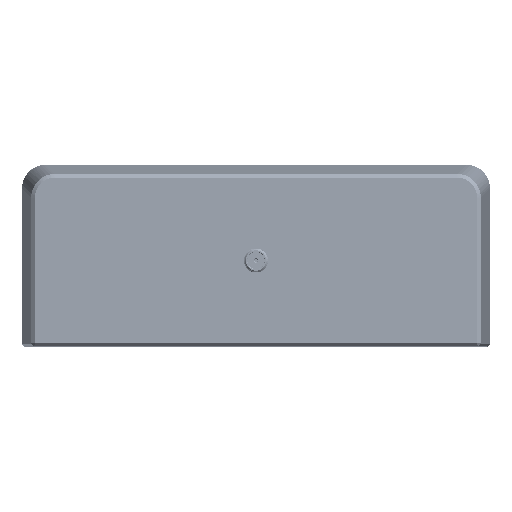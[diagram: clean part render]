
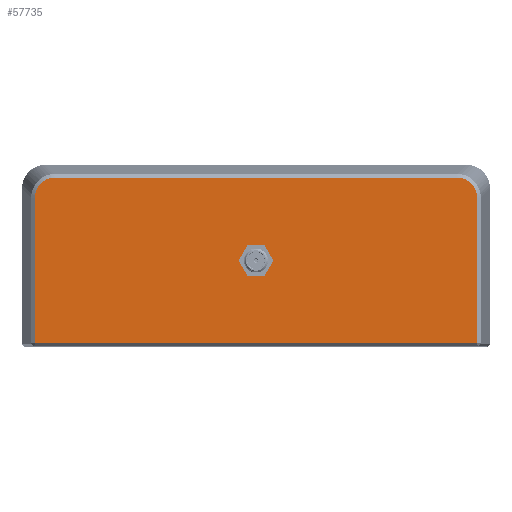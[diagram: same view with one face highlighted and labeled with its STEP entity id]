
A CAD part, top view. The second image highlights one B-rep face of the part: STEP entity #57735.
In plain terms, the highlighted planar face has unit normal (0, 0, 1).
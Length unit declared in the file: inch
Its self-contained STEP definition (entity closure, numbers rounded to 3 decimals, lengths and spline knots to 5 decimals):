
#814 = CIRCLE ( 'NONE', #115791, 0.1255 ) ;
#2743 = CARTESIAN_POINT ( 'NONE',  ( 2.96331, 4.87721, 2.87625 ) ) ;
#3403 = CARTESIAN_POINT ( 'NONE',  ( 0.71849, 4.09811, 2.87625 ) ) ;
#3594 = ORIENTED_EDGE ( 'NONE', *, *, #181262, .F. ) ;
#4284 = VERTEX_POINT ( 'NONE', #178928 ) ;
#4452 = DIRECTION ( 'NONE',  ( 1., 0., 0. ) ) ;
#5342 = DIRECTION ( 'NONE',  ( 1., 0., 0. ) ) ;
#5632 = CARTESIAN_POINT ( 'NONE',  ( 2.78193, 5.05865, 2.87625 ) ) ;
#6311 = CARTESIAN_POINT ( 'NONE',  ( 2.96331, 3.32357, 2.87625 ) ) ;
#8381 = DIRECTION ( 'NONE',  ( 1., 0., 0. ) ) ;
#8675 = EDGE_CURVE ( 'NONE', #57142, #74566, #40333, .T. ) ;
#9398 = CARTESIAN_POINT ( 'NONE',  ( 0.77649, 4.19111, 2.87625 ) ) ;
#12099 = CARTESIAN_POINT ( 'NONE',  ( 2.96331, 4.24357, 2.87625 ) ) ;
#12403 = CARTESIAN_POINT ( 'NONE',  ( -1.58111, 5.01692, 2.87625 ) ) ;
#13480 = DIRECTION ( 'NONE',  ( 1., 0., 0. ) ) ;
#18192 = ORIENTED_EDGE ( 'NONE', *, *, #167338, .F. ) ;
#18217 = DIRECTION ( 'NONE',  ( 1., 0., 0. ) ) ;
#19119 = VERTEX_POINT ( 'NONE', #93763 ) ;
#20164 = CARTESIAN_POINT ( 'NONE',  ( 2.75439, 5.05865, 2.87625 ) ) ;
#21097 = CARTESIAN_POINT ( 'NONE',  ( 0.65099, 4.19111, 2.87625 ) ) ;
#21985 = DIRECTION ( 'NONE',  ( 0., 0., 1. ) ) ;
#22069 = AXIS2_PLACEMENT_3D ( 'NONE', #3403, #151375, #5342 ) ;
#22675 = CIRCLE ( 'NONE', #53661, 0.02 ) ;
#23981 = AXIS2_PLACEMENT_3D ( 'NONE', #135014, #151622, #18217 ) ;
#25067 = CARTESIAN_POINT ( 'NONE',  ( -1.65591, 4.90471, 2.87625 ) ) ;
#25798 = VERTEX_POINT ( 'NONE', #108896 ) ;
#26177 = CARTESIAN_POINT ( 'NONE',  ( 0.65099, 3.32357, 2.87625 ) ) ;
#26203 = VERTEX_POINT ( 'NONE', #9398 ) ;
#30983 = PLANE ( 'NONE',  #189566 ) ;
#31968 = ORIENTED_EDGE ( 'NONE', *, *, #148566, .T. ) ;
#34969 = EDGE_LOOP ( 'NONE', ( #31968, #55111, #158317, #50045, #154189, #100434 ) ) ;
#40333 = LINE ( 'NONE', #12099, #182112 ) ;
#40620 = CARTESIAN_POINT ( 'NONE',  ( -1.45242, 5.05865, 2.87625 ) ) ;
#43216 = ORIENTED_EDGE ( 'NONE', *, *, #80402, .F. ) ;
#43478 = CARTESIAN_POINT ( 'NONE',  ( -1.4799, 5.05865, 2.87625 ) ) ;
#43634 = CARTESIAN_POINT ( 'NONE',  ( 2.88309, 5.01693, 2.87625 ) ) ;
#44717 = B_SPLINE_CURVE_WITH_KNOTS ( 'NONE', 3,
 ( #76613, #2743, #166277, #151674, #58240, #43634, #102997, #162442, #5632, #20164 ),
 .UNSPECIFIED., .F., .F.,
 ( 4, 2, 2, 2, 4 ),
 ( 0., 0.25, 0.5, 0.75, 1. ),
 .UNSPECIFIED. ) ;
#47409 = VERTEX_POINT ( 'NONE', #69268 ) ;
#48542 = ORIENTED_EDGE ( 'NONE', *, *, #153634, .F. ) ;
#48693 = AXIS2_PLACEMENT_3D ( 'NONE', #118601, #147905, #115735 ) ;
#50045 = ORIENTED_EDGE ( 'NONE', *, *, #8675, .T. ) ;
#53415 = DIRECTION ( 'NONE',  ( 0., -1., 0. ) ) ;
#53661 = AXIS2_PLACEMENT_3D ( 'NONE', #55739, #177368, #83869 ) ;
#55111 = ORIENTED_EDGE ( 'NONE', *, *, #82017, .T. ) ;
#55739 = CARTESIAN_POINT ( 'NONE',  ( 0.58349, 4.09811, 2.87625 ) ) ;
#56215 = CARTESIAN_POINT ( 'NONE',  ( -1.5074, 5.05321, 2.87625 ) ) ;
#57142 = VERTEX_POINT ( 'NONE', #6311 ) ;
#57735 = ADVANCED_FACE ( 'NONE', ( #147824, #136048 ), #30983, .F. ) ;
#58240 = CARTESIAN_POINT ( 'NONE',  ( 2.92159, 4.97842, 2.87625 ) ) ;
#67717 = CARTESIAN_POINT ( 'NONE',  ( -1.66134, 4.84972, 2.87625 ) ) ;
#68858 = CARTESIAN_POINT ( 'NONE',  ( -1.55788, 5.03242, 2.87625 ) ) ;
#69268 = CARTESIAN_POINT ( 'NONE',  ( -1.66134, 3.32357, 2.87625 ) ) ;
#69694 = CARTESIAN_POINT ( 'NONE',  ( -1.45242, 5.05865, 2.87625 ) ) ;
#72087 = CARTESIAN_POINT ( 'NONE',  ( 2.96331, 4.84972, 2.87625 ) ) ;
#74566 = VERTEX_POINT ( 'NONE', #72087 ) ;
#74933 = VERTEX_POINT ( 'NONE', #99101 ) ;
#76413 = LINE ( 'NONE', #135859, #121396 ) ;
#76613 = CARTESIAN_POINT ( 'NONE',  ( 2.96331, 4.84972, 2.87625 ) ) ;
#79881 = CIRCLE ( 'NONE', #135806, 0.1255 ) ;
#80402 = EDGE_CURVE ( 'NONE', #74933, #149183, #137087, .T. ) ;
#81065 = EDGE_CURVE ( 'NONE', #74566, #93987, #44717, .T. ) ;
#82017 = EDGE_CURVE ( 'NONE', #97752, #47409, #156688, .T. ) ;
#83869 = DIRECTION ( 'NONE',  ( 1., 0., 0. ) ) ;
#83895 = CARTESIAN_POINT ( 'NONE',  ( 0.65099, 5.05865, 2.87625 ) ) ;
#89166 = CIRCLE ( 'NONE', #23981, 0.02 ) ;
#93763 = CARTESIAN_POINT ( 'NONE',  ( 0.52549, 4.19111, 2.87625 ) ) ;
#93987 = VERTEX_POINT ( 'NONE', #141068 ) ;
#96227 = EDGE_CURVE ( 'NONE', #25798, #158197, #22675, .T. ) ;
#97752 = VERTEX_POINT ( 'NONE', #67717 ) ;
#99101 = CARTESIAN_POINT ( 'NONE',  ( 0.70965, 4.08016, 2.87625 ) ) ;
#99369 = EDGE_CURVE ( 'NONE', #47409, #57142, #100082, .T. ) ;
#100082 = LINE ( 'NONE', #26177, #172734 ) ;
#100434 = ORIENTED_EDGE ( 'NONE', *, *, #166042, .T. ) ;
#100694 = ORIENTED_EDGE ( 'NONE', *, *, #96227, .F. ) ;
#102846 = CARTESIAN_POINT ( 'NONE',  ( -1.61962, 4.97842, 2.87625 ) ) ;
#102996 = DIRECTION ( 'NONE',  ( 0., 0., -1. ) ) ;
#102997 = CARTESIAN_POINT ( 'NONE',  ( 2.85985, 5.03241, 2.87625 ) ) ;
#108896 = CARTESIAN_POINT ( 'NONE',  ( 0.56369, 4.10094, 2.87625 ) ) ;
#115500 = CARTESIAN_POINT ( 'NONE',  ( -1.6351, 4.95518, 2.87625 ) ) ;
#115735 = DIRECTION ( 'NONE',  ( 1., 0., 0. ) ) ;
#115791 = AXIS2_PLACEMENT_3D ( 'NONE', #21097, #166213, #168088 ) ;
#118145 = CARTESIAN_POINT ( 'NONE',  ( 0.73849, 4.09811, 2.87625 ) ) ;
#118601 = CARTESIAN_POINT ( 'NONE',  ( 0.65099, 4.19111, 2.87625 ) ) ;
#120321 = VECTOR ( 'NONE', #187262, 39.37008 ) ;
#120445 = CARTESIAN_POINT ( 'NONE',  ( 0.65099, 4.24357, 2.87625 ) ) ;
#121396 = VECTOR ( 'NONE', #4452, 39.37008 ) ;
#127434 = EDGE_LOOP ( 'NONE', ( #100694, #18192, #154272, #3594, #48542, #43216, #135484 ) ) ;
#127993 = EDGE_CURVE ( 'NONE', #158197, #74933, #76413, .T. ) ;
#129538 = CIRCLE ( 'NONE', #48693, 0.1255 ) ;
#130129 = CARTESIAN_POINT ( 'NONE',  ( -1.66134, 4.84972, 2.87625 ) ) ;
#135014 = CARTESIAN_POINT ( 'NONE',  ( 0.71849, 4.09811, 2.87625 ) ) ;
#135484 = ORIENTED_EDGE ( 'NONE', *, *, #127993, .F. ) ;
#135806 = AXIS2_PLACEMENT_3D ( 'NONE', #183685, #21985, #8381 ) ;
#135859 = CARTESIAN_POINT ( 'NONE',  ( 0.59232, 4.08016, 2.87625 ) ) ;
#136048 = FACE_OUTER_BOUND ( 'NONE', #34969, .T. ) ;
#137087 = CIRCLE ( 'NONE', #22069, 0.02 ) ;
#140414 = VECTOR ( 'NONE', #53415, 39.37008 ) ;
#141068 = CARTESIAN_POINT ( 'NONE',  ( 2.75439, 5.05865, 2.87625 ) ) ;
#146717 = CARTESIAN_POINT ( 'NONE',  ( -1.66134, 4.87727, 2.87625 ) ) ;
#147824 = FACE_BOUND ( 'NONE', #127434, .T. ) ;
#147905 = DIRECTION ( 'NONE',  ( 0., 0., 1. ) ) ;
#148566 = EDGE_CURVE ( 'NONE', #154086, #97752, #175488, .T. ) ;
#149183 = VERTEX_POINT ( 'NONE', #118145 ) ;
#151375 = DIRECTION ( 'NONE',  ( 0., 0., 1. ) ) ;
#151622 = DIRECTION ( 'NONE',  ( 0., 0., 1. ) ) ;
#151674 = CARTESIAN_POINT ( 'NONE',  ( 2.93708, 4.95519, 2.87625 ) ) ;
#153634 = EDGE_CURVE ( 'NONE', #149183, #4284, #89166, .T. ) ;
#154086 = VERTEX_POINT ( 'NONE', #69694 ) ;
#154189 = ORIENTED_EDGE ( 'NONE', *, *, #81065, .T. ) ;
#154272 = ORIENTED_EDGE ( 'NONE', *, *, #177100, .F. ) ;
#156688 = LINE ( 'NONE', #186874, #140414 ) ;
#157059 = LINE ( 'NONE', #83895, #120321 ) ;
#158197 = VERTEX_POINT ( 'NONE', #174266 ) ;
#158317 = ORIENTED_EDGE ( 'NONE', *, *, #99369, .T. ) ;
#159130 = DIRECTION ( 'NONE',  ( 0., 1., 0. ) ) ;
#162442 = CARTESIAN_POINT ( 'NONE',  ( 2.80938, 5.05322, 2.87625 ) ) ;
#166042 = EDGE_CURVE ( 'NONE', #93987, #154086, #157059, .T. ) ;
#166213 = DIRECTION ( 'NONE',  ( 0., 0., 1. ) ) ;
#166277 = CARTESIAN_POINT ( 'NONE',  ( 2.95788, 4.90471, 2.87625 ) ) ;
#167338 = EDGE_CURVE ( 'NONE', #19119, #25798, #129538, .T. ) ;
#168088 = DIRECTION ( 'NONE',  ( 1., 0., 0. ) ) ;
#172734 = VECTOR ( 'NONE', #13480, 39.37008 ) ;
#174266 = CARTESIAN_POINT ( 'NONE',  ( 0.59232, 4.08016, 2.87625 ) ) ;
#175488 = B_SPLINE_CURVE_WITH_KNOTS ( 'NONE', 3,
 ( #40620, #43478, #56215, #68858, #12403, #102846, #115500, #25067, #146717, #130129 ),
 .UNSPECIFIED., .F., .F.,
 ( 4, 2, 2, 2, 4 ),
 ( 0., 0.25, 0.5, 0.75, 1. ),
 .UNSPECIFIED. ) ;
#177100 = EDGE_CURVE ( 'NONE', #26203, #19119, #814, .T. ) ;
#177368 = DIRECTION ( 'NONE',  ( 0., 0., 1. ) ) ;
#178928 = CARTESIAN_POINT ( 'NONE',  ( 0.73828, 4.10094, 2.87625 ) ) ;
#179957 = DIRECTION ( 'NONE',  ( -1., 0., 0. ) ) ;
#181262 = EDGE_CURVE ( 'NONE', #4284, #26203, #79881, .T. ) ;
#182112 = VECTOR ( 'NONE', #159130, 39.37008 ) ;
#183685 = CARTESIAN_POINT ( 'NONE',  ( 0.65099, 4.19111, 2.87625 ) ) ;
#186874 = CARTESIAN_POINT ( 'NONE',  ( -1.66134, 4.24357, 2.87625 ) ) ;
#187262 = DIRECTION ( 'NONE',  ( -1., 0., 0. ) ) ;
#189566 = AXIS2_PLACEMENT_3D ( 'NONE', #120445, #102996, #179957 ) ;
